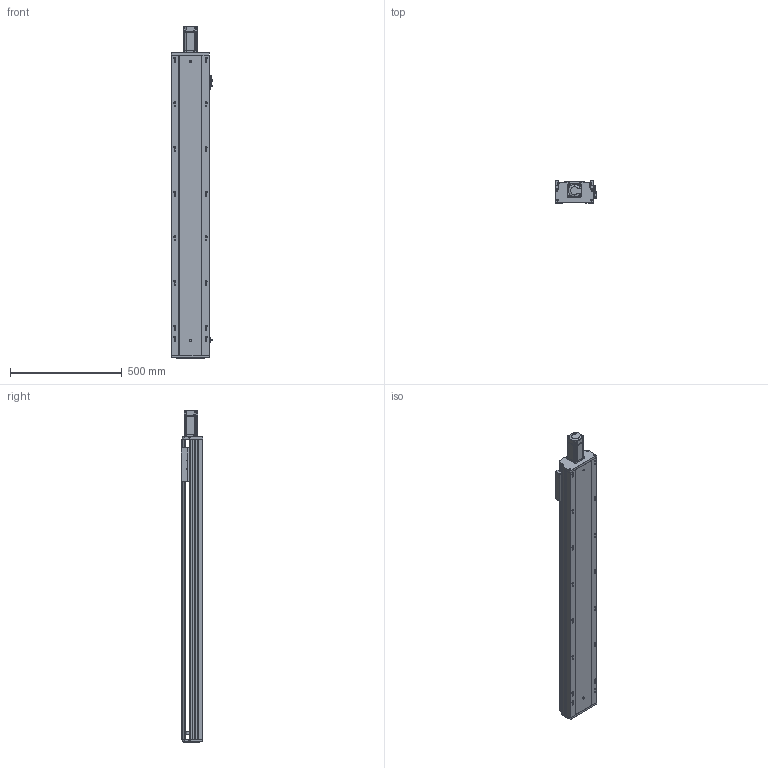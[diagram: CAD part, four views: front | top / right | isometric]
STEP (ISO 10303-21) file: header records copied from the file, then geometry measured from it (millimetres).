
FILE_DESCRIPTION (( 'STEP AP203' ), '1' );
FILE_NAME ('RY170Q-L2020-400-MK.SLDASM_1100.step', '2021-05-31T02:03:16', ( '盈信电脑' ), ( '东莞市道滘镇水果街19号' ), 'SwSTEP 2.0', 'SolidWorks 2016', '' );
FILE_SCHEMA (( 'CONFIG_CONTROL_DESIGN' ));
Length unit declared in the file: millimetre
Products named in the file (12): RY170綴裔啣; 15; RY170Q-L2020-400-MK.SLDASM_1100; 覜茼ん672; 侂狟400W侜督萇儂; RY170Q臏賑輸20佪裝蹟譫(FK15); RY170外置感应片(200共用）; RY170ヶ醱裔啣; 滅袉蝶18-15; 滅袉蝶18-10; RY170Q-400倰第裔啣-MK_1100; RY170Q-400倰第菁釱-MK_1100
Assembly tree (14 placements, depth 3):
  RY170Q-L2020-400-MK.SLDASM_1100
    RY170Q-400倰第菁釱-MK_1100
    RY170Q-400倰第裔啣-MK_1100
    RY170Q臏賑輸20佪裝蹟譫(FK15)
    侂狟400W侜督萇儂
      15
    RY170綴裔啣
    覜茼ん672  x3
    RY170外置感应片(200共用）
    RY170ヶ醱裔啣
    滅袉蝶18-15  x2
    滅袉蝶18-10
Bounding box: 183.7 x 97 x 1486.5 mm (x, y, z)
Volume: 6625497.1 mm3; surface area: 2191797.8 mm2
Topology: 13 solids, 13 shells, 2244 faces, 6435 edges, 4141 vertices
Faces by surface type: plane 1185, cylinder 833, cone 197, bspline 29
Entity records: 71110 total; most frequent: CARTESIAN_POINT 15849, ORIENTED_EDGE 11578, DIRECTION 10948, EDGE_CURVE 5789, VERTEX_POINT 3809, VECTOR 3688, LINE 3688, AXIS2_PLACEMENT_3D 3630
